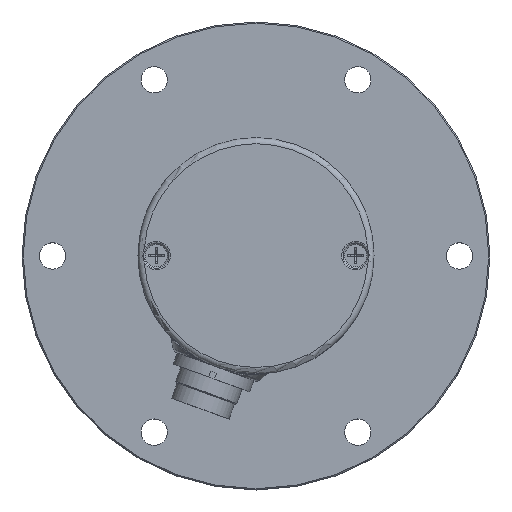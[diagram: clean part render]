
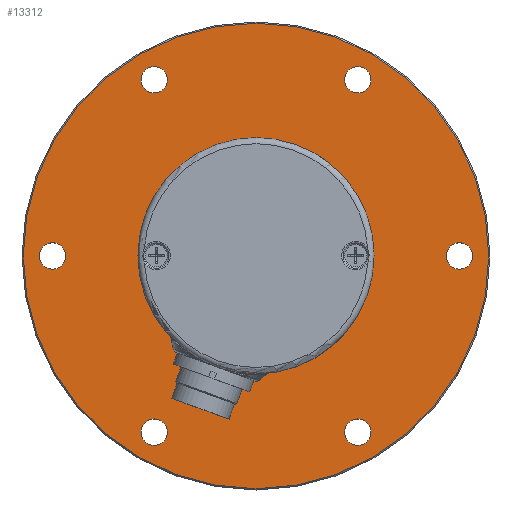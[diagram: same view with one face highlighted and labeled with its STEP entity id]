
A CAD part, top view. The second image highlights one B-rep face of the part: STEP entity #13312.
In plain terms, the highlighted planar face has unit normal (0, 0, 1).
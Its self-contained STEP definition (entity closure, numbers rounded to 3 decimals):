
#13184=CARTESIAN_POINT('',(57.2,0.,11.0));
#13185=VERTEX_POINT('',#13184);
#13186=CARTESIAN_POINT('',(0.0,0.0,11.0));
#13187=DIRECTION('',(0.0,0.0,-1.0));
#13188=DIRECTION('',(-1.0,0.0,0.0));
#13189=AXIS2_PLACEMENT_3D('',#13186,#13187,#13188);
#13190=CIRCLE('',#13189,57.2);
#13191=EDGE_CURVE('',#13185,#13185,#13190,.T.);
#13227=CARTESIAN_POINT('',(0.0,0.0,11.0));
#13228=DIRECTION('',(0.0,0.0,-1.0));
#13229=DIRECTION('',(-1.0,0.0,0.0));
#13230=AXIS2_PLACEMENT_3D('',#13227,#13228,#13229);
#13231=PLANE('',#13230);
#13232=ORIENTED_EDGE('',*,*,#13191,.F.);
#13233=EDGE_LOOP('',(#13232));
#13234=FACE_OUTER_BOUND('',#13233,.T.);
#13235=CARTESIAN_POINT('',(29.,0.,11.0));
#13236=VERTEX_POINT('',#13235);
#13237=CARTESIAN_POINT('',(0.0,0.0,11.0));
#13238=DIRECTION('',(0.0,0.0,1.0));
#13239=DIRECTION('',(-1.0,0.0,0.0));
#13240=AXIS2_PLACEMENT_3D('',#13237,#13238,#13239);
#13241=CIRCLE('',#13240,29.);
#13242=EDGE_CURVE('',#13236,#13236,#13241,.T.);
#13243=ORIENTED_EDGE('',*,*,#13242,.F.);
#13244=EDGE_LOOP('',(#13243));
#13245=FACE_BOUND('',#13244,.T.);
#13246=CARTESIAN_POINT('',(-21.75,43.301,11.0));
#13247=VERTEX_POINT('',#13246);
#13248=CARTESIAN_POINT('',(-25.,43.301,11.));
#13249=DIRECTION('',(0.0,0.0,-1.0));
#13250=DIRECTION('',(1.0,0.0,0.0));
#13251=AXIS2_PLACEMENT_3D('',#13248,#13249,#13250);
#13252=CIRCLE('',#13251,3.25);
#13253=EDGE_CURVE('',#13247,#13247,#13252,.T.);
#13254=ORIENTED_EDGE('',*,*,#13253,.T.);
#13255=EDGE_LOOP('',(#13254));
#13256=FACE_BOUND('',#13255,.T.);
#13257=CARTESIAN_POINT('',(-48.375,2.815,11.0));
#13258=VERTEX_POINT('',#13257);
#13259=CARTESIAN_POINT('',(-50.0,0.,11.));
#13260=DIRECTION('',(0.0,0.0,-1.0));
#13261=DIRECTION('',(0.5,0.866,0.0));
#13262=AXIS2_PLACEMENT_3D('',#13259,#13260,#13261);
#13263=CIRCLE('',#13262,3.25);
#13264=EDGE_CURVE('',#13258,#13258,#13263,.T.);
#13265=ORIENTED_EDGE('',*,*,#13264,.T.);
#13266=EDGE_LOOP('',(#13265));
#13267=FACE_BOUND('',#13266,.T.);
#13268=CARTESIAN_POINT('',(-26.625,-40.487,11.0));
#13269=VERTEX_POINT('',#13268);
#13270=CARTESIAN_POINT('',(-25.,-43.301,11.));
#13271=DIRECTION('',(0.0,0.0,-1.0));
#13272=DIRECTION('',(-0.5,0.866,0.0));
#13273=AXIS2_PLACEMENT_3D('',#13270,#13271,#13272);
#13274=CIRCLE('',#13273,3.25);
#13275=EDGE_CURVE('',#13269,#13269,#13274,.T.);
#13276=ORIENTED_EDGE('',*,*,#13275,.T.);
#13277=EDGE_LOOP('',(#13276));
#13278=FACE_BOUND('',#13277,.T.);
#13279=CARTESIAN_POINT('',(21.75,-43.301,11.0));
#13280=VERTEX_POINT('',#13279);
#13281=CARTESIAN_POINT('',(25.,-43.301,11.));
#13282=DIRECTION('',(0.0,0.0,-1.0));
#13283=DIRECTION('',(-1.0,0.0,0.0));
#13284=AXIS2_PLACEMENT_3D('',#13281,#13282,#13283);
#13285=CIRCLE('',#13284,3.25);
#13286=EDGE_CURVE('',#13280,#13280,#13285,.T.);
#13287=ORIENTED_EDGE('',*,*,#13286,.T.);
#13288=EDGE_LOOP('',(#13287));
#13289=FACE_BOUND('',#13288,.T.);
#13290=CARTESIAN_POINT('',(48.375,-2.815,11.0));
#13291=VERTEX_POINT('',#13290);
#13292=CARTESIAN_POINT('',(50.0,0.,11.));
#13293=DIRECTION('',(0.0,0.0,-1.0));
#13294=DIRECTION('',(-0.5,-0.866,0.0));
#13295=AXIS2_PLACEMENT_3D('',#13292,#13293,#13294);
#13296=CIRCLE('',#13295,3.25);
#13297=EDGE_CURVE('',#13291,#13291,#13296,.T.);
#13298=ORIENTED_EDGE('',*,*,#13297,.T.);
#13299=EDGE_LOOP('',(#13298));
#13300=FACE_BOUND('',#13299,.T.);
#13301=CARTESIAN_POINT('',(26.625,40.487,11.0));
#13302=VERTEX_POINT('',#13301);
#13303=CARTESIAN_POINT('',(25.,43.301,11.));
#13304=DIRECTION('',(0.0,0.0,-1.));
#13305=DIRECTION('',(0.5,-0.866,0.0));
#13306=AXIS2_PLACEMENT_3D('',#13303,#13304,#13305);
#13307=CIRCLE('',#13306,3.25);
#13308=EDGE_CURVE('',#13302,#13302,#13307,.T.);
#13309=ORIENTED_EDGE('',*,*,#13308,.T.);
#13310=EDGE_LOOP('',(#13309));
#13311=FACE_BOUND('',#13310,.T.);
#13312=ADVANCED_FACE('',(#13234,#13245,#13256,#13267,#13278,#13289,#13300,#13311),#13231,.F.);
